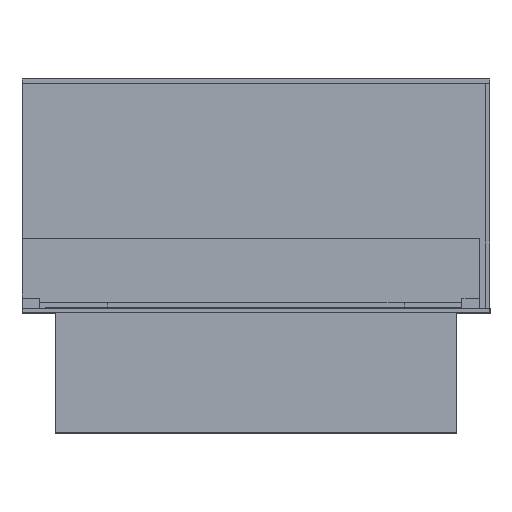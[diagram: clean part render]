
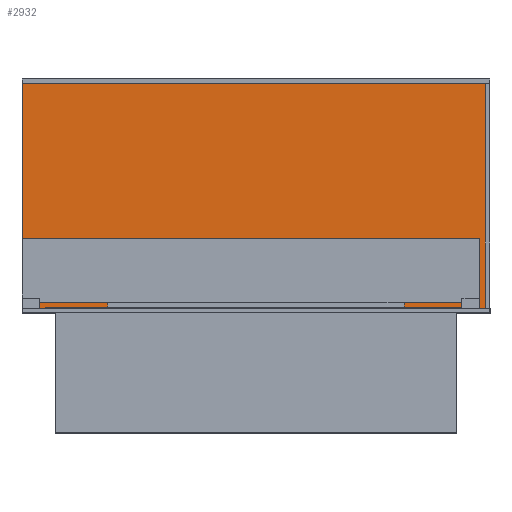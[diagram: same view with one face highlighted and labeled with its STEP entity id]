
A CAD part, top view. The second image highlights one B-rep face of the part: STEP entity #2932.
In plain terms, the highlighted planar face has unit normal (0, 0, 1).
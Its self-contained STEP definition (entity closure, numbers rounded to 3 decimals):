
#160 = CARTESIAN_POINT ( 'NONE',  ( -793.615, 196.083, -296.501 ) ) ;
#218 = DIRECTION ( 'NONE',  ( -1., 0., 0. ) ) ;
#438 = DIRECTION ( 'NONE',  ( 1., 0., 0. ) ) ;
#642 = DIRECTION ( 'NONE',  ( 1., 0., 0. ) ) ;
#801 = ORIENTED_EDGE ( 'NONE', *, *, #3404, .T. ) ;
#855 = DIRECTION ( 'NONE',  ( 0., -1., 0. ) ) ;
#1107 = EDGE_CURVE ( 'NONE', #4617, #1945, #3950, .T. ) ;
#1256 = LINE ( 'NONE', #4706, #3725 ) ;
#1262 = VECTOR ( 'NONE', #3516, 1000. ) ;
#1393 = CARTESIAN_POINT ( 'NONE',  ( 6.385, 196.083, -296.501 ) ) ;
#1531 = VERTEX_POINT ( 'NONE', #3633 ) ;
#1621 = EDGE_LOOP ( 'NONE', ( #801, #2915, #3468, #2444 ) ) ;
#1646 = LINE ( 'NONE', #3352, #4152 ) ;
#1904 = CARTESIAN_POINT ( 'NONE',  ( 6.385, 196.083, -296.501 ) ) ;
#1945 = VERTEX_POINT ( 'NONE', #4627 ) ;
#1949 = VERTEX_POINT ( 'NONE', #3744 ) ;
#2038 = AXIS2_PLACEMENT_3D ( 'NONE', #4426, #2756, #642 ) ;
#2444 = ORIENTED_EDGE ( 'NONE', *, *, #1107, .T. ) ;
#2756 = DIRECTION ( 'NONE',  ( 0., 0., 1. ) ) ;
#2915 = ORIENTED_EDGE ( 'NONE', *, *, #4475, .T. ) ;
#2932 = ADVANCED_FACE ( 'NONE', ( #3169 ), #4047, .T. ) ;
#3169 = FACE_OUTER_BOUND ( 'NONE', #1621, .T. ) ;
#3352 = CARTESIAN_POINT ( 'NONE',  ( -793.615, 196.083, -296.501 ) ) ;
#3404 = EDGE_CURVE ( 'NONE', #1945, #1531, #1646, .T. ) ;
#3468 = ORIENTED_EDGE ( 'NONE', *, *, #3578, .T. ) ;
#3516 = DIRECTION ( 'NONE',  ( 0., 1., 0. ) ) ;
#3578 = EDGE_CURVE ( 'NONE', #1949, #4617, #3591, .T. ) ;
#3591 = LINE ( 'NONE', #1904, #1262 ) ;
#3633 = CARTESIAN_POINT ( 'NONE',  ( -793.615, -203.917, -296.501 ) ) ;
#3725 = VECTOR ( 'NONE', #438, 1000. ) ;
#3744 = CARTESIAN_POINT ( 'NONE',  ( 6.385, -203.917, -296.501 ) ) ;
#3950 = LINE ( 'NONE', #160, #5158 ) ;
#4047 = PLANE ( 'NONE',  #2038 ) ;
#4152 = VECTOR ( 'NONE', #855, 1000. ) ;
#4426 = CARTESIAN_POINT ( 'NONE',  ( -793.615, -203.917, -296.501 ) ) ;
#4475 = EDGE_CURVE ( 'NONE', #1531, #1949, #1256, .T. ) ;
#4617 = VERTEX_POINT ( 'NONE', #1393 ) ;
#4627 = CARTESIAN_POINT ( 'NONE',  ( -793.615, 196.083, -296.501 ) ) ;
#4706 = CARTESIAN_POINT ( 'NONE',  ( -793.615, -203.917, -296.501 ) ) ;
#5158 = VECTOR ( 'NONE', #218, 1000. ) ;
